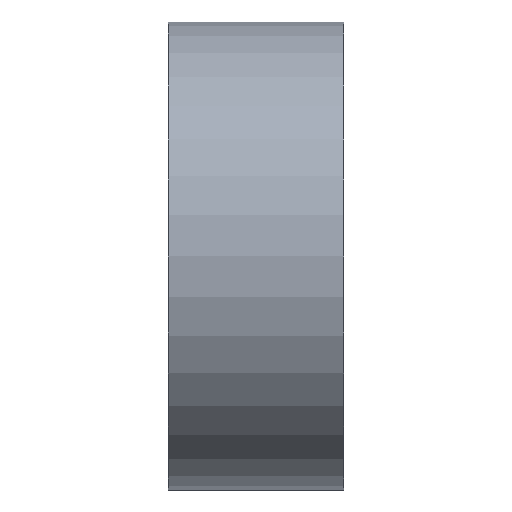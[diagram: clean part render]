
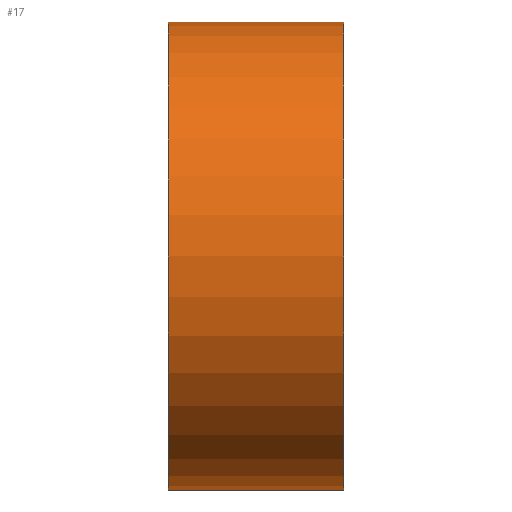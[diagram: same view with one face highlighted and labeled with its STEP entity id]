
A CAD part, front view. The second image highlights one B-rep face of the part: STEP entity #17.
In plain terms, the highlighted cylindrical face has radius 40 mm (diameter 80 mm), a full revolution.
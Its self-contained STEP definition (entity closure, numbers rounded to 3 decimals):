
#17 = ADVANCED_FACE('',(#18),#32,.T.);
#18 = FACE_BOUND('',#19,.F.);
#19 = EDGE_LOOP('',(#20,#50,#77,#78));
#20 = ORIENTED_EDGE('',*,*,#21,.T.);
#21 = EDGE_CURVE('',#22,#24,#26,.T.);
#22 = VERTEX_POINT('',#23);
#23 = CARTESIAN_POINT('',(-15.,40.,0.));
#24 = VERTEX_POINT('',#25);
#25 = CARTESIAN_POINT('',(15.,40.,0.));
#26 = SEAM_CURVE('',#27,(#31,#43),.PCURVE_S1.);
#27 = LINE('',#28,#29);
#28 = CARTESIAN_POINT('',(-15.,40.,0.));
#29 = VECTOR('',#30,1.);
#30 = DIRECTION('',(1.,0.,0.));
#31 = PCURVE('',#32,#37);
#32 = CYLINDRICAL_SURFACE('',#33,40.);
#33 = AXIS2_PLACEMENT_3D('',#34,#35,#36);
#34 = CARTESIAN_POINT('',(-15.,0.,0.));
#35 = DIRECTION('',(-1.,-0.,-0.));
#36 = DIRECTION('',(0.,1.,0.));
#37 = DEFINITIONAL_REPRESENTATION('',(#38),#42);
#38 = LINE('',#39,#40);
#39 = CARTESIAN_POINT('',(-0.,0.));
#40 = VECTOR('',#41,1.);
#41 = DIRECTION('',(-0.,-1.));
#42 = ( GEOMETRIC_REPRESENTATION_CONTEXT(2) 
PARAMETRIC_REPRESENTATION_CONTEXT() REPRESENTATION_CONTEXT('2D SPACE',''
  ) );
#43 = PCURVE('',#32,#44);
#44 = DEFINITIONAL_REPRESENTATION('',(#45),#49);
#45 = LINE('',#46,#47);
#46 = CARTESIAN_POINT('',(-6.283,0.));
#47 = VECTOR('',#48,1.);
#48 = DIRECTION('',(-0.,-1.));
#49 = ( GEOMETRIC_REPRESENTATION_CONTEXT(2) 
PARAMETRIC_REPRESENTATION_CONTEXT() REPRESENTATION_CONTEXT('2D SPACE',''
  ) );
#50 = ORIENTED_EDGE('',*,*,#51,.T.);
#51 = EDGE_CURVE('',#24,#24,#52,.T.);
#52 = SURFACE_CURVE('',#53,(#58,#65),.PCURVE_S1.);
#53 = CIRCLE('',#54,40.);
#54 = AXIS2_PLACEMENT_3D('',#55,#56,#57);
#55 = CARTESIAN_POINT('',(15.,0.,0.));
#56 = DIRECTION('',(1.,0.,0.));
#57 = DIRECTION('',(0.,1.,0.));
#58 = PCURVE('',#32,#59);
#59 = DEFINITIONAL_REPRESENTATION('',(#60),#64);
#60 = LINE('',#61,#62);
#61 = CARTESIAN_POINT('',(-0.,-30.));
#62 = VECTOR('',#63,1.);
#63 = DIRECTION('',(-1.,0.));
#64 = ( GEOMETRIC_REPRESENTATION_CONTEXT(2) 
PARAMETRIC_REPRESENTATION_CONTEXT() REPRESENTATION_CONTEXT('2D SPACE',''
  ) );
#65 = PCURVE('',#66,#71);
#66 = PLANE('',#67);
#67 = AXIS2_PLACEMENT_3D('',#68,#69,#70);
#68 = CARTESIAN_POINT('',(15.,0.,0.));
#69 = DIRECTION('',(1.,0.,0.));
#70 = DIRECTION('',(-0.,0.,1.));
#71 = DEFINITIONAL_REPRESENTATION('',(#72),#76);
#72 = CIRCLE('',#73,40.);
#73 = AXIS2_PLACEMENT_2D('',#74,#75);
#74 = CARTESIAN_POINT('',(0.,0.));
#75 = DIRECTION('',(0.,-1.));
#76 = ( GEOMETRIC_REPRESENTATION_CONTEXT(2) 
PARAMETRIC_REPRESENTATION_CONTEXT() REPRESENTATION_CONTEXT('2D SPACE',''
  ) );
#77 = ORIENTED_EDGE('',*,*,#21,.F.);
#78 = ORIENTED_EDGE('',*,*,#79,.F.);
#79 = EDGE_CURVE('',#22,#22,#80,.T.);
#80 = SURFACE_CURVE('',#81,(#86,#93),.PCURVE_S1.);
#81 = CIRCLE('',#82,40.);
#82 = AXIS2_PLACEMENT_3D('',#83,#84,#85);
#83 = CARTESIAN_POINT('',(-15.,0.,0.));
#84 = DIRECTION('',(1.,0.,0.));
#85 = DIRECTION('',(0.,1.,0.));
#86 = PCURVE('',#32,#87);
#87 = DEFINITIONAL_REPRESENTATION('',(#88),#92);
#88 = LINE('',#89,#90);
#89 = CARTESIAN_POINT('',(-0.,0.));
#90 = VECTOR('',#91,1.);
#91 = DIRECTION('',(-1.,0.));
#92 = ( GEOMETRIC_REPRESENTATION_CONTEXT(2) 
PARAMETRIC_REPRESENTATION_CONTEXT() REPRESENTATION_CONTEXT('2D SPACE',''
  ) );
#93 = PCURVE('',#94,#99);
#94 = PLANE('',#95);
#95 = AXIS2_PLACEMENT_3D('',#96,#97,#98);
#96 = CARTESIAN_POINT('',(-15.,0.,0.));
#97 = DIRECTION('',(1.,0.,0.));
#98 = DIRECTION('',(-0.,0.,1.));
#99 = DEFINITIONAL_REPRESENTATION('',(#100),#104);
#100 = CIRCLE('',#101,40.);
#101 = AXIS2_PLACEMENT_2D('',#102,#103);
#102 = CARTESIAN_POINT('',(0.,0.));
#103 = DIRECTION('',(0.,-1.));
#104 = ( GEOMETRIC_REPRESENTATION_CONTEXT(2) 
PARAMETRIC_REPRESENTATION_CONTEXT() REPRESENTATION_CONTEXT('2D SPACE',''
  ) );
